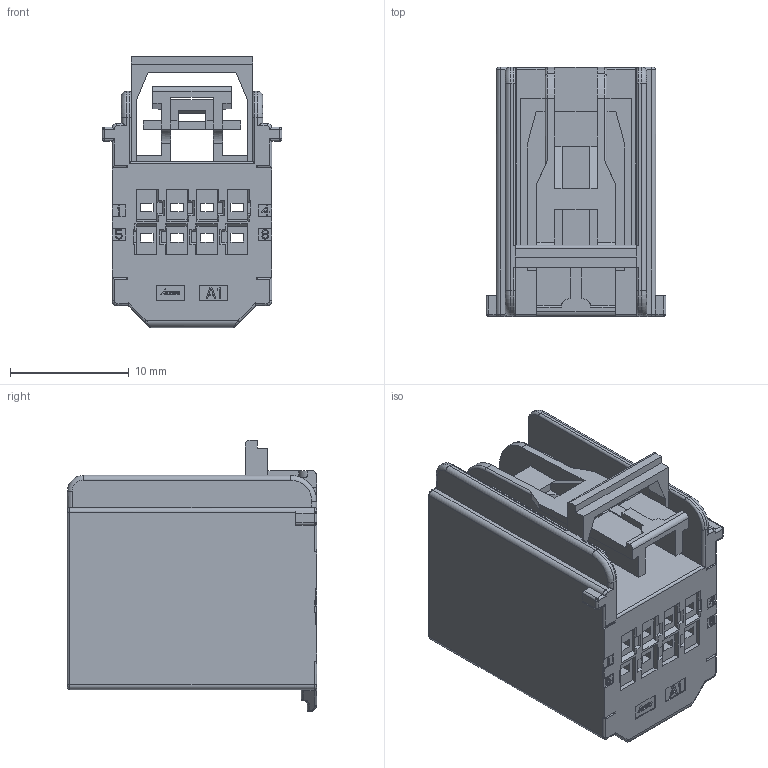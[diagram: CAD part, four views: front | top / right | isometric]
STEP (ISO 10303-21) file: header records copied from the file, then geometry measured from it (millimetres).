
FILE_DESCRIPTION(('CoCreate Modeling STEP Export'),'2;1');
FILE_NAME('S-92413-008XXX-CA1.stp','2018-06-25T15:36:06',(''),(''),'CoCreate Modeling STEP processor for AP214 (Solid Model)','CoCreate Modeling 17.00A 17-Jun-2010 (C) Parametric Technology GmbH','');
FILE_SCHEMA(('AUTOMOTIVE_DESIGN { 1 0 10303 214 1 1 1 1 }'));
Length unit declared in the file: millimetre
Products named in the file (2): 92413-008XXX-CA1
Assembly tree (1 placements, depth 2):
  92413-008XXX-CA1
    92413-008XXX-CA1
Bounding box: 15.15 x 21 x 22.85 mm (x, y, z)
Volume: 3580.3 mm3; surface area: 3360.9 mm2
Topology: 1 solids, 1 shells, 694 faces, 1852 edges, 1176 vertices
Faces by surface type: plane 504, cylinder 135, torus 33, sphere 16, bspline 6
Entity records: 21590 total; most frequent: CARTESIAN_POINT 4413, ORIENTED_EDGE 3704, DIRECTION 3334, EDGE_CURVE 1852, VECTOR 1516, LINE 1516, VERTEX_POINT 1176, AXIS2_PLACEMENT_3D 909
